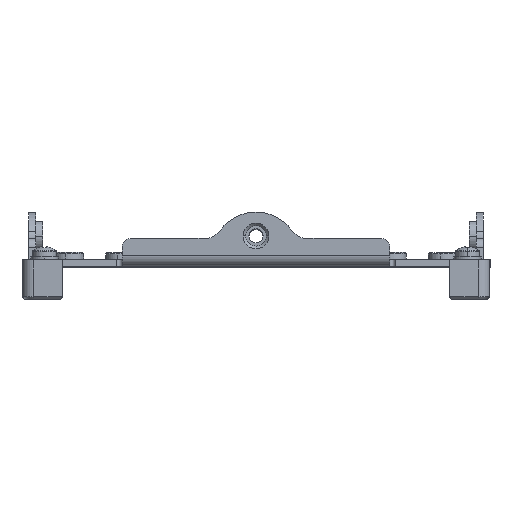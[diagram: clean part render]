
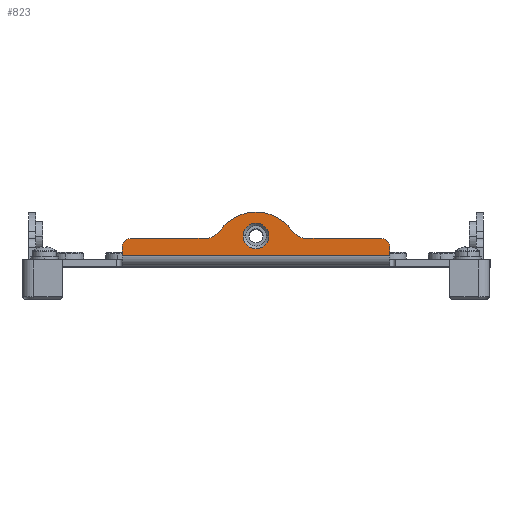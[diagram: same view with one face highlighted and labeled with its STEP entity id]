
A CAD part, top view. The second image highlights one B-rep face of the part: STEP entity #823.
In plain terms, the highlighted planar face has unit normal (0, 0, 1).
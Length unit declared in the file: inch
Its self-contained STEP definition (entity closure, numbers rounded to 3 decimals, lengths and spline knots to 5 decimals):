
#189 = VECTOR ( 'NONE', #16572, 39.37008 ) ;
#206 = VERTEX_POINT ( 'NONE', #26815 ) ;
#492 = DIRECTION ( 'NONE',  ( 0., -1., 0. ) ) ;
#663 = VECTOR ( 'NONE', #25326, 39.37008 ) ;
#674 = CARTESIAN_POINT ( 'NONE',  ( 0.30791, 0.29496, 1.9135 ) ) ;
#823 = ADVANCED_FACE ( 'NONE', ( #18560, #14673 ), #14460, .F. ) ;
#1027 = LINE ( 'NONE', #2859, #663 ) ;
#1090 = EDGE_CURVE ( 'NONE', #13093, #206, #16320, .T. ) ;
#1102 = LINE ( 'NONE', #16449, #189 ) ;
#2297 = CIRCLE ( 'NONE', #8326, 0.375 ) ;
#2696 = AXIS2_PLACEMENT_3D ( 'NONE', #26524, #15485, #492 ) ;
#2859 = CARTESIAN_POINT ( 'NONE',  ( -1.126, 0.23622, 1.9135 ) ) ;
#3152 = VECTOR ( 'NONE', #19209, 39.37008 ) ;
#3574 = VERTEX_POINT ( 'NONE', #12515 ) ;
#3753 = EDGE_CURVE ( 'NONE', #19198, #27121, #12230, .T. ) ;
#3935 = CIRCLE ( 'NONE', #20548, 0.13685 ) ;
#5140 = EDGE_CURVE ( 'NONE', #206, #12674, #2297, .T. ) ;
#5649 = DIRECTION ( 'NONE',  ( 0., 0., -1. ) ) ;
#5752 = VECTOR ( 'NONE', #10586, 39.37008 ) ;
#6342 = AXIS2_PLACEMENT_3D ( 'NONE', #10762, #5649, #12280 ) ;
#6498 = CIRCLE ( 'NONE', #20944, 0.08 ) ;
#6916 = DIRECTION ( 'NONE',  ( -1., 0., 0. ) ) ;
#6925 = DIRECTION ( 'NONE',  ( 0., 0., 1. ) ) ;
#6963 = CARTESIAN_POINT ( 'NONE',  ( 0.42028, 0.37307, 1.9135 ) ) ;
#7466 = EDGE_CURVE ( 'NONE', #3574, #17909, #1102, .T. ) ;
#7865 = CARTESIAN_POINT ( 'NONE',  ( -1.126, 0.15622, 1.9135 ) ) ;
#7892 = DIRECTION ( 'NONE',  ( 0., 0., -1. ) ) ;
#8121 = EDGE_CURVE ( 'NONE', #12674, #3574, #3935, .T. ) ;
#8323 = CARTESIAN_POINT ( 'NONE',  ( -1.126, 0.09, 1.9135 ) ) ;
#8326 = AXIS2_PLACEMENT_3D ( 'NONE', #21527, #21525, #21494 ) ;
#8962 = ORIENTED_EDGE ( 'NONE', *, *, #18519, .T. ) ;
#9150 = DIRECTION ( 'NONE',  ( 0., -1., 0. ) ) ;
#9263 = CARTESIAN_POINT ( 'NONE',  ( 1.126, 0.45276, 1.9135 ) ) ;
#9419 = DIRECTION ( 'NONE',  ( 0., -1., 0. ) ) ;
#9442 = DIRECTION ( 'NONE',  ( 0., 0., 1. ) ) ;
#9474 = CARTESIAN_POINT ( 'NONE',  ( 1.046, 0.15622, 1.9135 ) ) ;
#9515 = CARTESIAN_POINT ( 'NONE',  ( -0.42028, 0.37307, 1.9135 ) ) ;
#9533 = CIRCLE ( 'NONE', #14642, 0.108 ) ;
#9548 = LINE ( 'NONE', #9263, #3152 ) ;
#10586 = DIRECTION ( 'NONE',  ( 0., -1., 0. ) ) ;
#10666 = AXIS2_PLACEMENT_3D ( 'NONE', #26638, #26604, #26538 ) ;
#10762 = CARTESIAN_POINT ( 'NONE',  ( 0., 0.25591, 1.9135 ) ) ;
#10777 = CARTESIAN_POINT ( 'NONE',  ( -1.126, 0.45276, 1.9135 ) ) ;
#10909 = CIRCLE ( 'NONE', #6342, 0.108 ) ;
#10953 = AXIS2_PLACEMENT_3D ( 'NONE', #9515, #15598, #23171 ) ;
#11699 = EDGE_LOOP ( 'NONE', ( #19442, #21395, #26919, #26235, #8962, #27536, #11975, #25958, #25537, #13009 ) ) ;
#11975 = ORIENTED_EDGE ( 'NONE', *, *, #12088, .T. ) ;
#12088 = EDGE_CURVE ( 'NONE', #18455, #17909, #6498, .T. ) ;
#12175 = CARTESIAN_POINT ( 'NONE',  ( 0.108, 0.25591, 1.9135 ) ) ;
#12230 = LINE ( 'NONE', #10777, #5752 ) ;
#12280 = DIRECTION ( 'NONE',  ( 0., -1., 0. ) ) ;
#12515 = CARTESIAN_POINT ( 'NONE',  ( 0.42028, 0.23622, 1.9135 ) ) ;
#12674 = VERTEX_POINT ( 'NONE', #674 ) ;
#12837 = CARTESIAN_POINT ( 'NONE',  ( 0., 0.25591, 1.9135 ) ) ;
#12864 = EDGE_CURVE ( 'NONE', #13938, #19198, #23260, .T. ) ;
#13009 = ORIENTED_EDGE ( 'NONE', *, *, #5140, .F. ) ;
#13093 = VERTEX_POINT ( 'NONE', #24361 ) ;
#13938 = VERTEX_POINT ( 'NONE', #14801 ) ;
#14460 = PLANE ( 'NONE',  #2696 ) ;
#14642 = AXIS2_PLACEMENT_3D ( 'NONE', #12837, #7892, #9150 ) ;
#14673 = FACE_OUTER_BOUND ( 'NONE', #11699, .T. ) ;
#14801 = CARTESIAN_POINT ( 'NONE',  ( -1.046, 0.23622, 1.9135 ) ) ;
#15030 = CARTESIAN_POINT ( 'NONE',  ( 1.126, 0.15622, 1.9135 ) ) ;
#15485 = DIRECTION ( 'NONE',  ( 0., 0., -1. ) ) ;
#15598 = DIRECTION ( 'NONE',  ( 0., 0., 1. ) ) ;
#15728 = VERTEX_POINT ( 'NONE', #19534 ) ;
#16320 = CIRCLE ( 'NONE', #10953, 0.13685 ) ;
#16420 = EDGE_LOOP ( 'NONE', ( #24823, #23448 ) ) ;
#16449 = CARTESIAN_POINT ( 'NONE',  ( 1.126, 0.23622, 1.9135 ) ) ;
#16572 = DIRECTION ( 'NONE',  ( 1., 0., 0. ) ) ;
#17909 = VERTEX_POINT ( 'NONE', #24185 ) ;
#18455 = VERTEX_POINT ( 'NONE', #15030 ) ;
#18519 = EDGE_CURVE ( 'NONE', #27121, #20192, #24427, .T. ) ;
#18560 = FACE_BOUND ( 'NONE', #16420, .T. ) ;
#19198 = VERTEX_POINT ( 'NONE', #7865 ) ;
#19209 = DIRECTION ( 'NONE',  ( 0., -1., 0. ) ) ;
#19442 = ORIENTED_EDGE ( 'NONE', *, *, #1090, .F. ) ;
#19534 = CARTESIAN_POINT ( 'NONE',  ( -0.108, 0.25591, 1.9135 ) ) ;
#20192 = VERTEX_POINT ( 'NONE', #20406 ) ;
#20406 = CARTESIAN_POINT ( 'NONE',  ( 1.126, 0.09, 1.9135 ) ) ;
#20548 = AXIS2_PLACEMENT_3D ( 'NONE', #6963, #6925, #6916 ) ;
#20762 = EDGE_CURVE ( 'NONE', #23559, #15728, #9533, .T. ) ;
#20835 = EDGE_CURVE ( 'NONE', #13938, #13093, #1027, .T. ) ;
#20944 = AXIS2_PLACEMENT_3D ( 'NONE', #9474, #9442, #9419 ) ;
#21395 = ORIENTED_EDGE ( 'NONE', *, *, #20835, .F. ) ;
#21494 = DIRECTION ( 'NONE',  ( -1., 0., 0. ) ) ;
#21525 = DIRECTION ( 'NONE',  ( 0., 0., -1. ) ) ;
#21527 = CARTESIAN_POINT ( 'NONE',  ( 0., 0.08091, 1.9135 ) ) ;
#21694 = EDGE_CURVE ( 'NONE', #18455, #20192, #9548, .T. ) ;
#23171 = DIRECTION ( 'NONE',  ( 1., 0., 0. ) ) ;
#23260 = CIRCLE ( 'NONE', #10666, 0.08 ) ;
#23448 = ORIENTED_EDGE ( 'NONE', *, *, #20762, .T. ) ;
#23559 = VERTEX_POINT ( 'NONE', #12175 ) ;
#24185 = CARTESIAN_POINT ( 'NONE',  ( 1.046, 0.23622, 1.9135 ) ) ;
#24361 = CARTESIAN_POINT ( 'NONE',  ( -0.42028, 0.23622, 1.9135 ) ) ;
#24398 = VECTOR ( 'NONE', #24507, 39.37008 ) ;
#24427 = LINE ( 'NONE', #25312, #24398 ) ;
#24507 = DIRECTION ( 'NONE',  ( 1., 0., 0. ) ) ;
#24823 = ORIENTED_EDGE ( 'NONE', *, *, #25509, .T. ) ;
#25312 = CARTESIAN_POINT ( 'NONE',  ( -1.126, 0.09, 1.9135 ) ) ;
#25326 = DIRECTION ( 'NONE',  ( 1., 0., 0. ) ) ;
#25509 = EDGE_CURVE ( 'NONE', #15728, #23559, #10909, .T. ) ;
#25537 = ORIENTED_EDGE ( 'NONE', *, *, #8121, .F. ) ;
#25958 = ORIENTED_EDGE ( 'NONE', *, *, #7466, .F. ) ;
#26235 = ORIENTED_EDGE ( 'NONE', *, *, #3753, .T. ) ;
#26524 = CARTESIAN_POINT ( 'NONE',  ( -1.1711, 0.45276, 1.9135 ) ) ;
#26538 = DIRECTION ( 'NONE',  ( 0., -1., 0. ) ) ;
#26604 = DIRECTION ( 'NONE',  ( 0., 0., 1. ) ) ;
#26638 = CARTESIAN_POINT ( 'NONE',  ( -1.046, 0.15622, 1.9135 ) ) ;
#26815 = CARTESIAN_POINT ( 'NONE',  ( -0.30791, 0.29496, 1.9135 ) ) ;
#26919 = ORIENTED_EDGE ( 'NONE', *, *, #12864, .T. ) ;
#27121 = VERTEX_POINT ( 'NONE', #8323 ) ;
#27536 = ORIENTED_EDGE ( 'NONE', *, *, #21694, .F. ) ;
